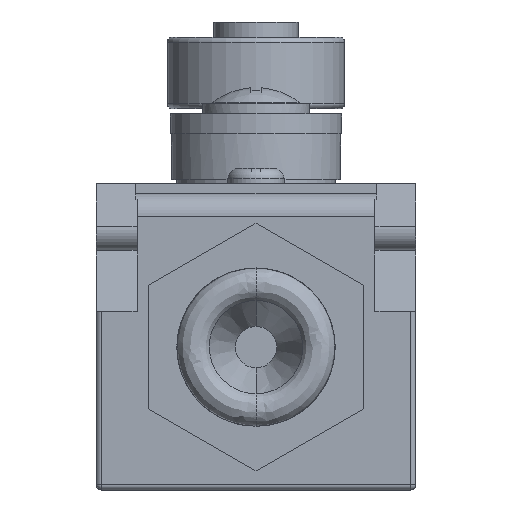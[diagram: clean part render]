
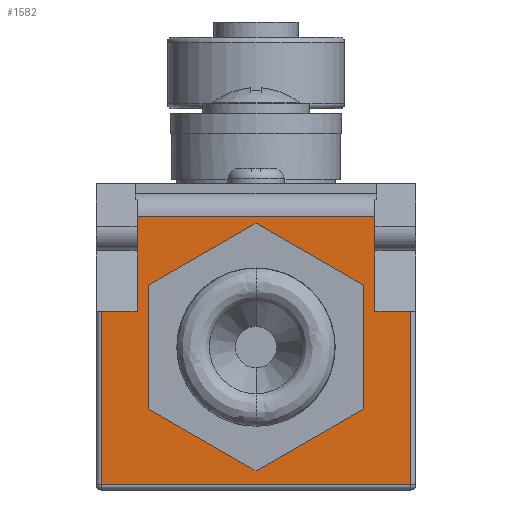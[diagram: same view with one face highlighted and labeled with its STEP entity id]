
A CAD part, front view. The second image highlights one B-rep face of the part: STEP entity #1582.
In plain terms, the highlighted planar face has unit normal (0, -1, 0).
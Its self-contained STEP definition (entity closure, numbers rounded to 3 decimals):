
#166 = LINE ( 'NONE', #167, #4749 ) ;
#167 = CARTESIAN_POINT ( 'NONE',  ( -15.15, -30., 10.7 ) ) ;
#168 = DIRECTION ( 'NONE',  ( 0., 0., -1. ) ) ;
#364 = PLANE ( 'NONE',  #10266 ) ;
#365 = CARTESIAN_POINT ( 'NONE',  ( -15.65, -30., 19.3 ) ) ;
#366 = DIRECTION ( 'NONE',  ( 0., 1., 0. ) ) ;
#367 = DIRECTION ( 'NONE',  ( 0., 0., 1. ) ) ;
#1337 = EDGE_CURVE ( 'NONE', #7116, #7108, #7898, .T. ) ;
#1475 = EDGE_CURVE ( 'NONE', #7169, #7170, #8495, .T. ) ;
#1476 = EDGE_CURVE ( 'NONE', #7173, #7169, #8498, .T. ) ;
#1481 = EDGE_CURVE ( 'NONE', #7171, #7172, #8513, .T. ) ;
#1482 = EDGE_CURVE ( 'NONE', #7170, #7171, #8516, .T. ) ;
#1487 = EDGE_CURVE ( 'NONE', #7403, #7113, #8531, .T. ) ;
#1488 = EDGE_CURVE ( 'NONE', #7174, #7173, #8534, .T. ) ;
#1492 = EDGE_CURVE ( 'NONE', #7113, #7110, #8546, .T. ) ;
#1493 = EDGE_CURVE ( 'NONE', #7172, #7174, #8549, .T. ) ;
#1498 = EDGE_CURVE ( 'NONE', #7112, #7104, #8564, .T. ) ;
#1499 = EDGE_CURVE ( 'NONE', #7104, #7110, #8567, .T. ) ;
#1561 = EDGE_CURVE ( 'NONE', #7108, #7112, #166, .T. ) ;
#1582 = ADVANCED_FACE ( 'NONE', ( #10219, #4725 ), #364, .F. ) ;
#1888 = EDGE_CURVE ( 'NONE', #7403, #7401, #2242, .T. ) ;
#1988 = EDGE_CURVE ( 'NONE', #7401, #7116, #2542, .T. ) ;
#2242 = LINE ( 'NONE', #2243, #9735 ) ;
#2243 = CARTESIAN_POINT ( 'NONE',  ( -15.65, -30., 16.071 ) ) ;
#2244 = DIRECTION ( 'NONE',  ( -1., 0., 0. ) ) ;
#2542 = LINE ( 'NONE', #2543, #7483 ) ;
#2543 = CARTESIAN_POINT ( 'NONE',  ( -11.65, -30., 6.8 ) ) ;
#2544 = DIRECTION ( 'NONE',  ( 0., 0., -1. ) ) ;
#3016 = CARTESIAN_POINT ( 'NONE',  ( 15.15, -30., -10.2 ) ) ;
#3020 = CARTESIAN_POINT ( 'NONE',  ( -15.15, -30., 6.8 ) ) ;
#3022 = CARTESIAN_POINT ( 'NONE',  ( 15.15, -30., 6.8 ) ) ;
#3024 = CARTESIAN_POINT ( 'NONE',  ( -15.15, -30., -10.2 ) ) ;
#3025 = CARTESIAN_POINT ( 'NONE',  ( 11.65, -30., 6.8 ) ) ;
#3028 = CARTESIAN_POINT ( 'NONE',  ( -11.65, -30., 6.8 ) ) ;
#3081 = CARTESIAN_POINT ( 'NONE',  ( 10.5, -30., -2.762 ) ) ;
#3082 = CARTESIAN_POINT ( 'NONE',  ( 10.5, -30., 9.362 ) ) ;
#3083 = CARTESIAN_POINT ( 'NONE',  ( 0., -30., 15.424 ) ) ;
#3084 = CARTESIAN_POINT ( 'NONE',  ( -10.5, -30., 9.362 ) ) ;
#3085 = CARTESIAN_POINT ( 'NONE',  ( 0., -30., -8.824 ) ) ;
#3086 = CARTESIAN_POINT ( 'NONE',  ( -10.5, -30., -2.762 ) ) ;
#3313 = CARTESIAN_POINT ( 'NONE',  ( -11.65, -30., 16.071 ) ) ;
#3314 = CARTESIAN_POINT ( 'NONE',  ( 11.65, -30., 16.071 ) ) ;
#4725 = FACE_BOUND ( 'NONE', #5865, .T. ) ;
#4749 = VECTOR ( 'NONE', #168, 1000. ) ;
#4829 = VECTOR ( 'NONE', #8569, 1000. ) ;
#4832 = VECTOR ( 'NONE', #8566, 1000. ) ;
#4839 = VECTOR ( 'NONE', #8551, 1000. ) ;
#4840 = VECTOR ( 'NONE', #8548, 1000. ) ;
#4844 = VECTOR ( 'NONE', #8536, 1000. ) ;
#4845 = VECTOR ( 'NONE', #8533, 1000. ) ;
#4850 = VECTOR ( 'NONE', #8518, 1000. ) ;
#4852 = VECTOR ( 'NONE', #8515, 1000. ) ;
#4857 = VECTOR ( 'NONE', #8500, 1000. ) ;
#4858 = VECTOR ( 'NONE', #8497, 1000. ) ;
#5864 = EDGE_LOOP ( 'NONE', ( #6728, #6724, #6725, #6723, #6722, #6721, #6720, #6719 ) ) ;
#5865 = EDGE_LOOP ( 'NONE', ( #6718, #6716, #6717, #6715, #6714, #6713 ) ) ;
#6713 = ORIENTED_EDGE ( 'NONE', *, *, #1476, .F. ) ;
#6714 = ORIENTED_EDGE ( 'NONE', *, *, #1475, .F. ) ;
#6715 = ORIENTED_EDGE ( 'NONE', *, *, #1482, .F. ) ;
#6716 = ORIENTED_EDGE ( 'NONE', *, *, #1493, .F. ) ;
#6717 = ORIENTED_EDGE ( 'NONE', *, *, #1481, .F. ) ;
#6718 = ORIENTED_EDGE ( 'NONE', *, *, #1488, .F. ) ;
#6719 = ORIENTED_EDGE ( 'NONE', *, *, #1487, .F. ) ;
#6720 = ORIENTED_EDGE ( 'NONE', *, *, #1492, .F. ) ;
#6721 = ORIENTED_EDGE ( 'NONE', *, *, #1499, .T. ) ;
#6722 = ORIENTED_EDGE ( 'NONE', *, *, #1498, .T. ) ;
#6723 = ORIENTED_EDGE ( 'NONE', *, *, #1561, .T. ) ;
#6724 = ORIENTED_EDGE ( 'NONE', *, *, #1988, .T. ) ;
#6725 = ORIENTED_EDGE ( 'NONE', *, *, #1337, .T. ) ;
#6728 = ORIENTED_EDGE ( 'NONE', *, *, #1888, .T. ) ;
#7104 = VERTEX_POINT ( 'NONE', #3016 ) ;
#7108 = VERTEX_POINT ( 'NONE', #3020 ) ;
#7110 = VERTEX_POINT ( 'NONE', #3022 ) ;
#7112 = VERTEX_POINT ( 'NONE', #3024 ) ;
#7113 = VERTEX_POINT ( 'NONE', #3025 ) ;
#7116 = VERTEX_POINT ( 'NONE', #3028 ) ;
#7169 = VERTEX_POINT ( 'NONE', #3081 ) ;
#7170 = VERTEX_POINT ( 'NONE', #3082 ) ;
#7171 = VERTEX_POINT ( 'NONE', #3083 ) ;
#7172 = VERTEX_POINT ( 'NONE', #3084 ) ;
#7173 = VERTEX_POINT ( 'NONE', #3085 ) ;
#7174 = VERTEX_POINT ( 'NONE', #3086 ) ;
#7401 = VERTEX_POINT ( 'NONE', #3313 ) ;
#7403 = VERTEX_POINT ( 'NONE', #3314 ) ;
#7483 = VECTOR ( 'NONE', #2544, 1000. ) ;
#7898 = LINE ( 'NONE', #7899, #8900 ) ;
#7899 = CARTESIAN_POINT ( 'NONE',  ( -11.65, -30., 6.8 ) ) ;
#7900 = DIRECTION ( 'NONE',  ( -1., 0., 0. ) ) ;
#8495 = LINE ( 'NONE', #8496, #4858 ) ;
#8496 = CARTESIAN_POINT ( 'NONE',  ( 10.5, -30., -2.762 ) ) ;
#8497 = DIRECTION ( 'NONE',  ( 0., 0., 1. ) ) ;
#8498 = LINE ( 'NONE', #8499, #4857 ) ;
#8499 = CARTESIAN_POINT ( 'NONE',  ( 0., -30., -8.824 ) ) ;
#8500 = DIRECTION ( 'NONE',  ( 0.866, 0., 0.5 ) ) ;
#8513 = LINE ( 'NONE', #8514, #4852 ) ;
#8514 = CARTESIAN_POINT ( 'NONE',  ( 0., -30., 15.424 ) ) ;
#8515 = DIRECTION ( 'NONE',  ( -0.866, 0., -0.5 ) ) ;
#8516 = LINE ( 'NONE', #8517, #4850 ) ;
#8517 = CARTESIAN_POINT ( 'NONE',  ( 10.5, -30., 9.362 ) ) ;
#8518 = DIRECTION ( 'NONE',  ( -0.866, 0., 0.5 ) ) ;
#8531 = LINE ( 'NONE', #8532, #4845 ) ;
#8532 = CARTESIAN_POINT ( 'NONE',  ( 11.65, -30., 6.8 ) ) ;
#8533 = DIRECTION ( 'NONE',  ( 0., 0., -1. ) ) ;
#8534 = LINE ( 'NONE', #8535, #4844 ) ;
#8535 = CARTESIAN_POINT ( 'NONE',  ( -10.5, -30., -2.762 ) ) ;
#8536 = DIRECTION ( 'NONE',  ( 0.866, 0., -0.5 ) ) ;
#8546 = LINE ( 'NONE', #8547, #4840 ) ;
#8547 = CARTESIAN_POINT ( 'NONE',  ( 11.65, -30., 6.8 ) ) ;
#8548 = DIRECTION ( 'NONE',  ( 1., 0., 0. ) ) ;
#8549 = LINE ( 'NONE', #8550, #4839 ) ;
#8550 = CARTESIAN_POINT ( 'NONE',  ( -10.5, -30., 9.362 ) ) ;
#8551 = DIRECTION ( 'NONE',  ( 0., 0., -1. ) ) ;
#8564 = LINE ( 'NONE', #8565, #4832 ) ;
#8565 = CARTESIAN_POINT ( 'NONE',  ( 15.65, -30., -10.2 ) ) ;
#8566 = DIRECTION ( 'NONE',  ( 1., 0., 0. ) ) ;
#8567 = LINE ( 'NONE', #8568, #4829 ) ;
#8568 = CARTESIAN_POINT ( 'NONE',  ( 15.15, -30., 10.7 ) ) ;
#8569 = DIRECTION ( 'NONE',  ( 0., 0., 1. ) ) ;
#8900 = VECTOR ( 'NONE', #7900, 1000. ) ;
#9735 = VECTOR ( 'NONE', #2244, 1000. ) ;
#10219 = FACE_OUTER_BOUND ( 'NONE', #5864, .T. ) ;
#10266 = AXIS2_PLACEMENT_3D ( 'NONE', #365, #366, #367 ) ;
